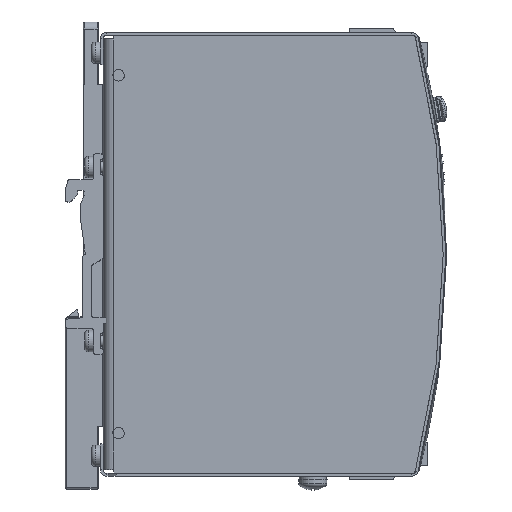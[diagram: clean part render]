
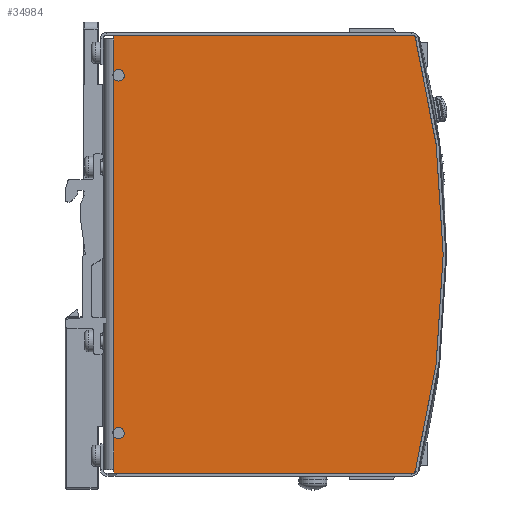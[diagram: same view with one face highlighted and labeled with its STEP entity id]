
A CAD part, front view. The second image highlights one B-rep face of the part: STEP entity #34984.
In plain terms, the highlighted planar face has unit normal (0, -1, 0) as drawn and (-1, 0, 0) by its records, which use the part's own axes.
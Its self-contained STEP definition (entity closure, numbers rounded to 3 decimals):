
#947=PLANE('',#37257);
#2598=FACE_OUTER_BOUND('',#4463,.T.);
#4463=EDGE_LOOP('',(#24559,#24560,#24561,#24562,#24563,#24564,#24565,#24566,
#24567,#24568,#24569,#24570));
#6769=LINE('',#48419,#10779);
#6771=LINE('',#48426,#10781);
#6772=LINE('',#48427,#10782);
#6803=LINE('',#48506,#10813);
#6807=LINE('',#48519,#10817);
#6820=LINE('',#48547,#10830);
#6821=LINE('',#48549,#10831);
#10779=VECTOR('',#39615,10.);
#10781=VECTOR('',#39621,10.);
#10782=VECTOR('',#39622,10.);
#10813=VECTOR('',#39691,10.);
#10817=VECTOR('',#39705,10.);
#10830=VECTOR('',#39734,10.);
#10831=VECTOR('',#39737,10.);
#14787=CIRCLE('',#37213,1.6);
#14790=CIRCLE('',#37216,1.6);
#14791=CIRCLE('',#37218,1.6);
#14794=CIRCLE('',#37221,1.6);
#14802=CIRCLE('',#37238,240.);
#15856=VERTEX_POINT('',#48354);
#15857=VERTEX_POINT('',#48355);
#15858=VERTEX_POINT('',#48366);
#15862=VERTEX_POINT('',#48386);
#15863=VERTEX_POINT('',#48387);
#15864=VERTEX_POINT('',#48398);
#15868=VERTEX_POINT('',#48418);
#15871=VERTEX_POINT('',#48424);
#15890=VERTEX_POINT('',#48480);
#15891=VERTEX_POINT('',#48482);
#15900=VERTEX_POINT('',#48505);
#15904=VERTEX_POINT('',#48518);
#19279=EDGE_CURVE('',#15858,#15856,#14787,.T.);
#19284=EDGE_CURVE('',#15857,#15858,#14790,.T.);
#19286=EDGE_CURVE('',#15864,#15862,#14791,.T.);
#19291=EDGE_CURVE('',#15863,#15864,#14794,.T.);
#19292=EDGE_CURVE('',#15857,#15868,#6769,.T.);
#19296=EDGE_CURVE('',#15871,#15862,#6771,.T.);
#19297=EDGE_CURVE('',#15863,#15856,#6772,.T.);
#19325=EDGE_CURVE('',#15891,#15890,#14802,.T.);
#19336=EDGE_CURVE('',#15868,#15900,#6803,.T.);
#19343=EDGE_CURVE('',#15904,#15871,#6807,.T.);
#19359=EDGE_CURVE('',#15891,#15904,#6820,.T.);
#19360=EDGE_CURVE('',#15900,#15890,#6821,.T.);
#24559=ORIENTED_EDGE('',*,*,#19284,.T.);
#24560=ORIENTED_EDGE('',*,*,#19279,.T.);
#24561=ORIENTED_EDGE('',*,*,#19297,.F.);
#24562=ORIENTED_EDGE('',*,*,#19291,.T.);
#24563=ORIENTED_EDGE('',*,*,#19286,.T.);
#24564=ORIENTED_EDGE('',*,*,#19296,.F.);
#24565=ORIENTED_EDGE('',*,*,#19343,.F.);
#24566=ORIENTED_EDGE('',*,*,#19359,.F.);
#24567=ORIENTED_EDGE('',*,*,#19325,.T.);
#24568=ORIENTED_EDGE('',*,*,#19360,.F.);
#24569=ORIENTED_EDGE('',*,*,#19336,.F.);
#24570=ORIENTED_EDGE('',*,*,#19292,.F.);
#34984=ADVANCED_FACE('',(#2598),#947,.F.);
#37213=AXIS2_PLACEMENT_3D('',#48367,#39593,#39594);
#37216=AXIS2_PLACEMENT_3D('',#48384,#39600,#39601);
#37218=AXIS2_PLACEMENT_3D('',#48399,#39604,#39605);
#37221=AXIS2_PLACEMENT_3D('',#48416,#39611,#39612);
#37238=AXIS2_PLACEMENT_3D('',#48483,#39671,#39672);
#37257=AXIS2_PLACEMENT_3D('',#48548,#39735,#39736);
#39593=DIRECTION('center_axis',(1.,0.,0.));
#39594=DIRECTION('ref_axis',(0.,0.,-1.));
#39600=DIRECTION('center_axis',(1.,0.,0.));
#39601=DIRECTION('ref_axis',(0.,0.,-1.));
#39604=DIRECTION('center_axis',(1.,0.,0.));
#39605=DIRECTION('ref_axis',(0.,0.,-1.));
#39611=DIRECTION('center_axis',(1.,0.,0.));
#39612=DIRECTION('ref_axis',(0.,0.,-1.));
#39615=DIRECTION('',(0.,0.,1.));
#39621=DIRECTION('',(0.,0.,1.));
#39622=DIRECTION('',(0.,0.,1.));
#39671=DIRECTION('center_axis',(-1.,0.,0.));
#39672=DIRECTION('ref_axis',(0.,0.967,-0.255));
#39691=DIRECTION('',(0.,0.,1.));
#39705=DIRECTION('',(0.,0.,1.));
#39734=DIRECTION('',(0.,1.,0.));
#39735=DIRECTION('center_axis',(1.,0.,0.));
#39736=DIRECTION('ref_axis',(0.,0.,-1.));
#39737=DIRECTION('',(0.,-1.,0.));
#48354=CARTESIAN_POINT('',(-16.,-3.,49.067));
#48355=CARTESIAN_POINT('',(-16.,-3.,50.933));
#48366=CARTESIAN_POINT('',(-16.,-4.3,51.6));
#48367=CARTESIAN_POINT('Origin',(-16.,-4.3,50.));
#48384=CARTESIAN_POINT('Origin',(-16.,-4.3,50.));
#48386=CARTESIAN_POINT('',(-16.,-3.,-50.933));
#48387=CARTESIAN_POINT('',(-16.,-3.,-49.067));
#48398=CARTESIAN_POINT('',(-16.,-4.3,-48.4));
#48399=CARTESIAN_POINT('Origin',(-16.,-4.3,-50.));
#48416=CARTESIAN_POINT('Origin',(-16.,-4.3,-50.));
#48418=CARTESIAN_POINT('',(-16.,-3.,60.15));
#48419=CARTESIAN_POINT('',(-16.,-3.,0.));
#48424=CARTESIAN_POINT('',(-16.,-3.,-60.15));
#48426=CARTESIAN_POINT('',(-16.,-3.,0.));
#48427=CARTESIAN_POINT('',(-16.,-3.,0.));
#48480=CARTESIAN_POINT('',(-16.,-87.079,61.15));
#48482=CARTESIAN_POINT('',(-16.,-87.079,-61.15));
#48483=CARTESIAN_POINT('Origin',(-16.,145.,0.));
#48505=CARTESIAN_POINT('',(-16.,-3.,61.15));
#48506=CARTESIAN_POINT('',(-16.,-3.,0.));
#48518=CARTESIAN_POINT('',(-16.,-3.,-61.15));
#48519=CARTESIAN_POINT('',(-16.,-3.,0.));
#48547=CARTESIAN_POINT('',(-16.,29.786,-61.15));
#48548=CARTESIAN_POINT('Origin',(-16.,13.393,0.));
#48549=CARTESIAN_POINT('',(-16.,-95.,61.15));
